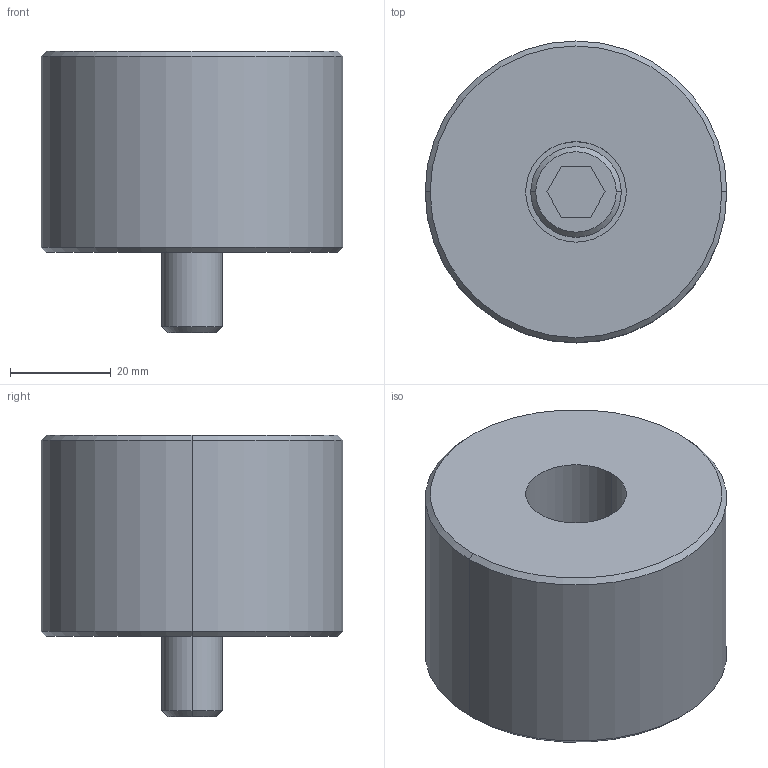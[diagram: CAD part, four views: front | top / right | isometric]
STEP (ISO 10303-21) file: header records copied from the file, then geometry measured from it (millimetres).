
FILE_DESCRIPTION((''),'2;1');
FILE_NAME('','2010-08-30T16:49:40+09:00',('misumi'),(''),'M/STEP i/f 1R2-14','CADmeister v5.1','');
FILE_SCHEMA(('AUTOMOTIVE_DESIGN'));
Length unit declared in the file: millimetre
Products named in the file (1): DEB60-40-Y
Bounding box: 60 x 60 x 56 mm (x, y, z)
Volume: 108462 mm3; surface area: 17376.3 mm2
Topology: 2 solids, 2 shells, 31 faces, 64 edges, 40 vertices
Faces by surface type: plane 13, cylinder 10, cone 8
Entity records: 924 total; most frequent: DIRECTION 156, CARTESIAN_POINT 136, ORIENTED_EDGE 128, EDGE_CURVE 64, AXIS2_PLACEMENT_3D 60, VERTEX_POINT 40, LINE 36, VECTOR 36
